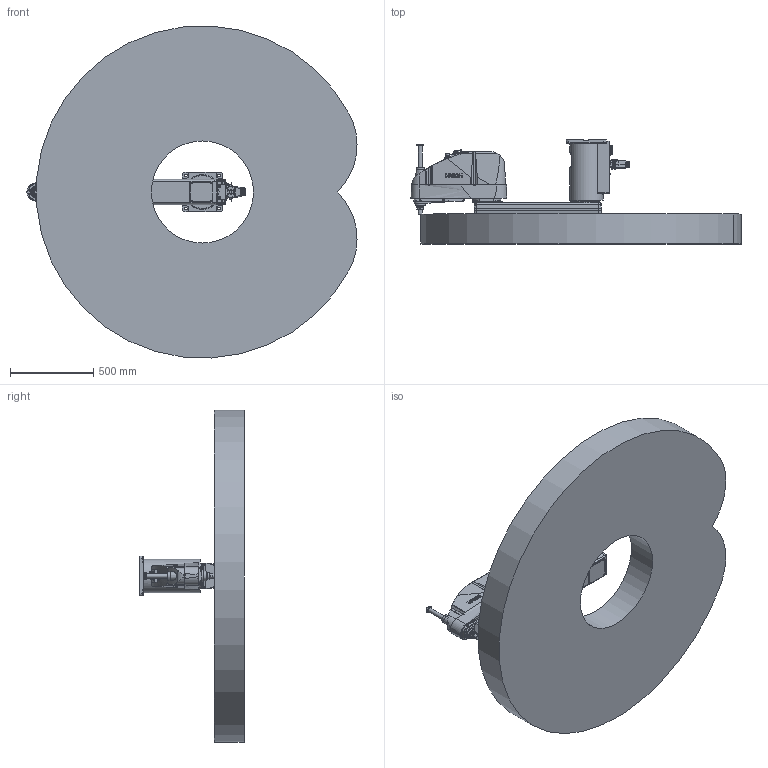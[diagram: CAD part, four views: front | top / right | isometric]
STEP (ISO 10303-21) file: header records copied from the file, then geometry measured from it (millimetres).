
FILE_DESCRIPTION( ( 'STEP AP214' ), '1' );
FILE_NAME( 'C:/Users/9607552/Desktop/GX20-BA01SR_straight.stp', '2023-08-01T09:44:03', ( '' ), ( '' ), ' ', 'PARTsolutions', ' ' );
FILE_SCHEMA( ( 'AUTOMOTIVE_DESIGN { 1 0 10303 214 1 1 1 1 }' ) );
Length unit declared in the file: millimetre
Products named in the file (7): GX20-BA01SRS-W; _Base sr; _Straight-B; _J1 Arm GX10-600 r/w; _J2 Arm GX10-s; _J3 Arm GX10-s (1); _GX10_20B-36_1
Assembly tree (6 placements, depth 2):
  GX20-BA01SRS-W
    _Base sr
    _Straight-B
    _J1 Arm GX10-600 r/w
    _J2 Arm GX10-s
    _J3 Arm GX10-s (1)
    _GX10_20B-36_1
Bounding box: 1985.19 x 627.5 x 1996.91 mm (x, y, z)
Volume: 544687229.1 mm3; surface area: 8539654.1 mm2
Topology: 6 solids, 6 shells, 2501 faces, 6114 edges, 3988 vertices
Faces by surface type: plane 1310, cylinder 759, cone 334, torus 65, bspline 32, sphere 1
Full cylindrical faces by diameter (mm): 1 x24, 1.18 x55, 3 x32, 3.242 x10, 3.3 x4, 4.2 x4, 4.8 x4, 5.1 x4, 5.25 x2, 5.34 x8, 5.4 x5, 5.5 x16, 6 x1, 6.2 x4, 6.647 x2, 7 x31, 8 x9, 8.5 x2, 9 x4, 10 x32, 11 x14, 12 x6, 12.25 x1, 13 x2, 14 x8, 14.25 x1, 16 x6, 18 x2, 20.4 x1, 21.7 x2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
Entity records: 94778 total; most frequent: CARTESIAN_POINT 18181, DIRECTION 11651, ORIENTED_EDGE 10886, EDGE_CURVE 5443, AXIS2_PLACEMENT_3D 4464, VERTEX_POINT 3898, EDGE_LOOP 3471, FACE_OUTER_BOUND 2873
